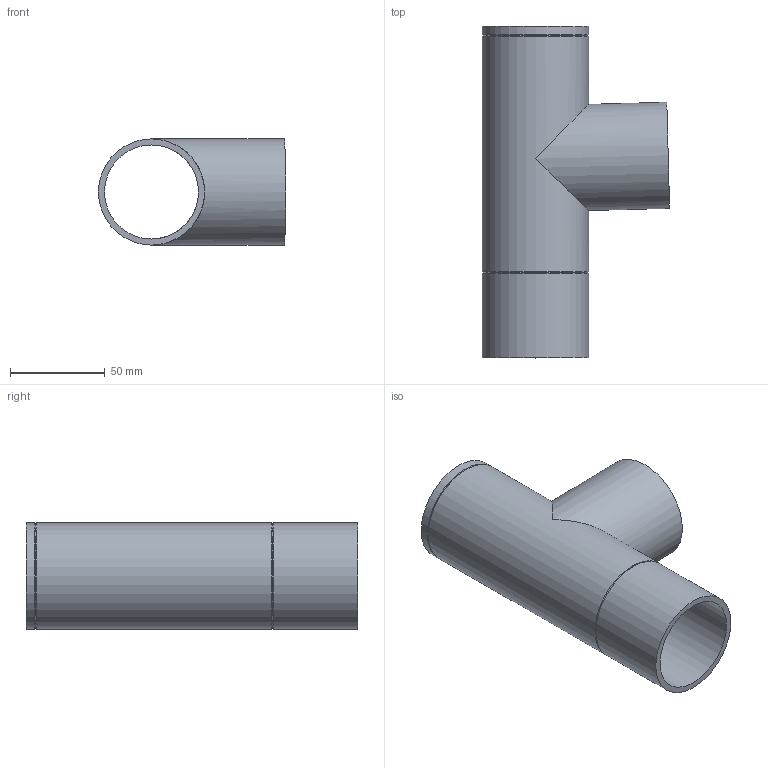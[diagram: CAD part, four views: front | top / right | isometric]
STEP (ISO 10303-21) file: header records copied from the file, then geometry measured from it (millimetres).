
FILE_DESCRIPTION(/* description */ (''),/* implementation_level */ '2;1');
FILE_NAME(/* name */ 'Z:\Geberit\Export\Export18\Abzweig Gerade_Ipart\stp\305058.stp',/* time_stamp */ '2014-08-26T21:47:47+02:00',/* author */ ('ML'),/* organization */ (''),/* preprocessor_version */ 'ST-DEVELOPER v15.2',/* originating_system */ 'Autodesk Inventor 2014',/* authorisation */ '');
FILE_SCHEMA (('AUTOMOTIVE_DESIGN { 1 0 10303 214 3 1 1 }'));
Length unit declared in the file: millimetre
Products named in the file (1): 305058
Bounding box: 98.71 x 175 x 56 mm (x, y, z)
Volume: 112113.4 mm3; surface area: 71898.5 mm2
Topology: 1 solids, 1 shells, 13 faces, 32 edges, 21 vertices
Faces by surface type: cylinder 6, cone 4, plane 3
Full cylindrical faces by diameter (mm): 49.6 x2, 56 x4
Entity records: 323 total; most frequent: DIRECTION 60, CARTESIAN_POINT 46, ORIENTED_EDGE 32, AXIS2_PLACEMENT_3D 30, EDGE_LOOP 28, FACE_BOUND 19, VERTEX_POINT 16, EDGE_CURVE 16
